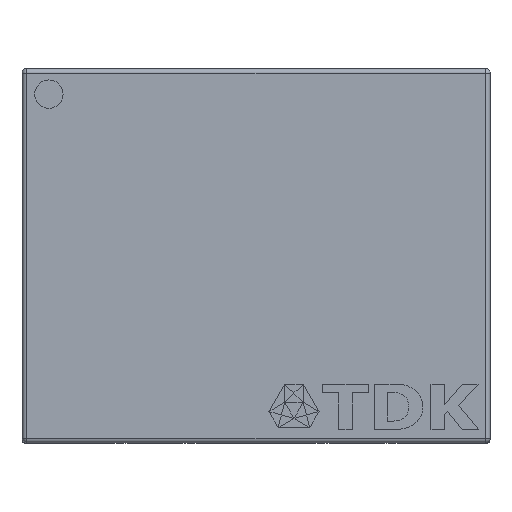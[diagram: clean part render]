
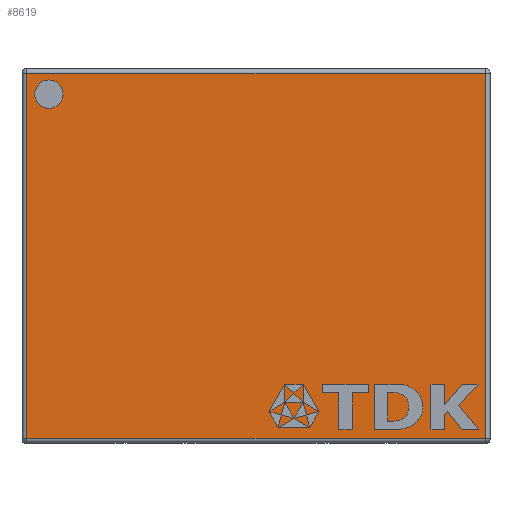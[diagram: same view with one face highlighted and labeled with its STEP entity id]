
A CAD part, top view. The second image highlights one B-rep face of the part: STEP entity #8619.
In plain terms, the highlighted planar face has unit normal (0, 0, 1).
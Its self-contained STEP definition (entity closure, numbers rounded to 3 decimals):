
#860=LINE('',#18979,#1436);
#867=LINE('',#19003,#1443);
#871=LINE('',#19009,#1447);
#875=LINE('',#19015,#1451);
#1436=VECTOR('',#12204,10.);
#1443=VECTOR('',#12233,10.);
#1447=VECTOR('',#12241,10.);
#1451=VECTOR('',#12249,10.);
#1667=PLANE('',#9785);
#2155=FACE_OUTER_BOUND('',#2645,.T.);
#2645=EDGE_LOOP('',(#8035,#8036,#8037,#8038));
#4175=VERTEX_POINT('',#18931);
#4189=VERTEX_POINT('',#18968);
#4192=VERTEX_POINT('',#18975);
#4196=VERTEX_POINT('',#18995);
#5429=EDGE_CURVE('',#4175,#4192,#860,.T.);
#5442=EDGE_CURVE('',#4196,#4189,#867,.T.);
#5446=EDGE_CURVE('',#4192,#4196,#871,.T.);
#5450=EDGE_CURVE('',#4189,#4175,#875,.T.);
#8035=ORIENTED_EDGE('',*,*,#5442,.F.);
#8036=ORIENTED_EDGE('',*,*,#5446,.F.);
#8037=ORIENTED_EDGE('',*,*,#5429,.F.);
#8038=ORIENTED_EDGE('',*,*,#5450,.F.);
#8619=ADVANCED_FACE('',(#2155),#1667,.T.);
#9785=AXIS2_PLACEMENT_3D('',#19080,#12342,#12343);
#12204=DIRECTION('',(0.,-1.,0.));
#12233=DIRECTION('',(0.,1.,0.));
#12241=DIRECTION('',(-1.,0.,0.));
#12249=DIRECTION('',(1.,0.,0.));
#12342=DIRECTION('center_axis',(0.,0.,1.));
#12343=DIRECTION('ref_axis',(1.,0.,0.));
#18931=CARTESIAN_POINT('',(1.225,0.975,1.3));
#18968=CARTESIAN_POINT('',(-1.225,0.975,1.3));
#18975=CARTESIAN_POINT('',(1.225,-0.975,1.3));
#18979=CARTESIAN_POINT('',(1.225,0.,1.3));
#18995=CARTESIAN_POINT('',(-1.225,-0.975,1.3));
#19003=CARTESIAN_POINT('',(-1.225,0.,1.3));
#19009=CARTESIAN_POINT('',(-0.625,-0.975,1.3));
#19015=CARTESIAN_POINT('',(-0.625,0.975,1.3));
#19080=CARTESIAN_POINT('Origin',(-1.25,0.,1.3));
